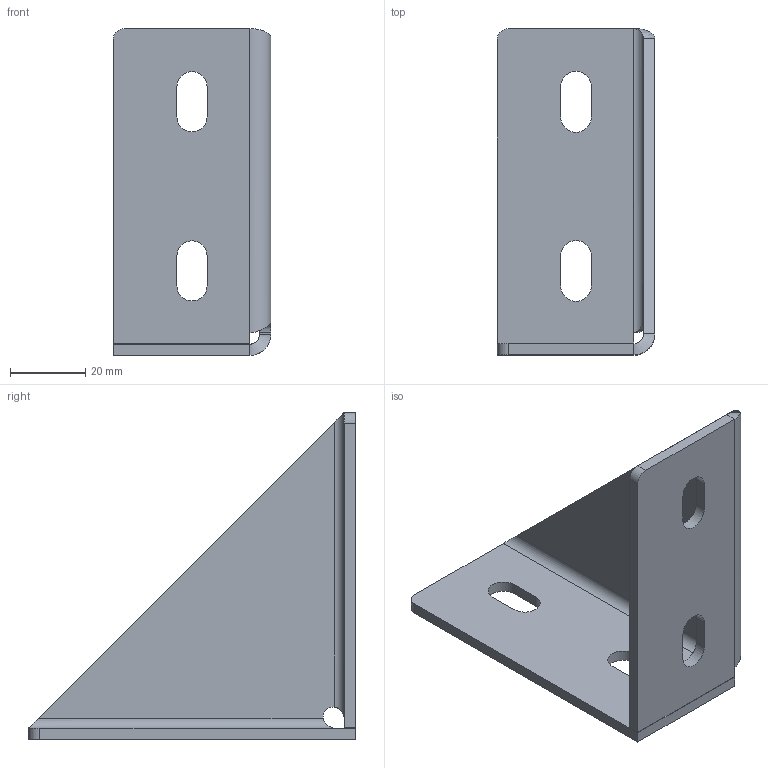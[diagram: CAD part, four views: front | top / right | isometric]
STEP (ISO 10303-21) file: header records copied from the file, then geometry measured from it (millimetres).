
FILE_DESCRIPTION (( 'STEP AP214' ), '1' );
FILE_NAME ('8302s.STEP', '2015-04-10T05:51:04', ( '' ), ( '' ), 'SwSTEP 2.0', 'SolidWorks 2014', '' );
FILE_SCHEMA (( 'AUTOMOTIVE_DESIGN' ));
Length unit declared in the file: millimetre
Products named in the file (1): 8302s
Bounding box: 42 x 87 x 87 mm (x, y, z)
Volume: 29587.7 mm3; surface area: 21625.1 mm2
Topology: 1 solids, 1 shells, 46 faces, 116 edges, 72 vertices
Faces by surface type: plane 25, cylinder 17, bspline 4
Entity records: 1516 total; most frequent: CARTESIAN_POINT 385, ORIENTED_EDGE 232, DIRECTION 216, EDGE_CURVE 116, VECTOR 78, LINE 78, VERTEX_POINT 72, AXIS2_PLACEMENT_3D 69
